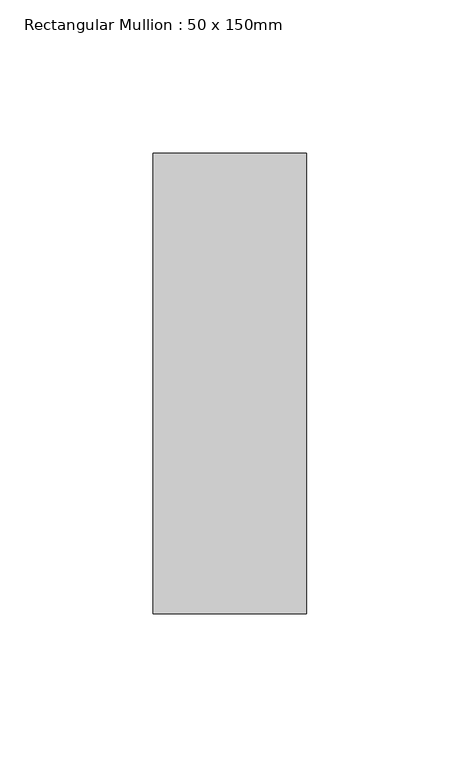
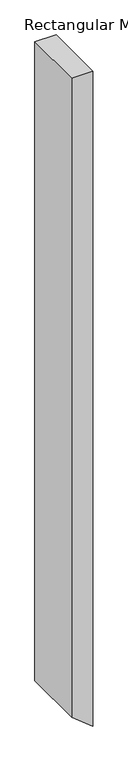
"""IFC4 building model written with IfcOpenShell, lengths in millimetres: member geometry, Rectangular Mullion : 50 x 150mm."""

from ifc_helpers import new_model, si_unit, frame, origin, place, context, project, spatial, polyline, outline, extrude, source, transform, mapped, element, save


def rectangular_mullion_50_x_150mm_6aa0c7af(model_context):
    return source(origin(), model_context, "Body", "SweptSolid", [
        extrude(outline(polyline([(0.0, 0.0), (0.0, -50.0), (-1589.9008568, -50.0), (-1629.5156212, 0.0), (0.0, 0.0)])), frame((0.0, -75.0, 0.0), z_axis=(0.0, 1.0, 0.0), x_axis=(0.0, 0.0, 1.0)), (0.0, 0.0, 1.0), 150.0),
    ])


if __name__ == "__main__":
    model = new_model("IFC4")
    model_context = context("Model", 3, world=origin())
    ifc_project = project(units=[si_unit("LENGTHUNIT", "METRE", prefix="MILLI")], contexts=[model_context])
    site = spatial("IfcSite", under=ifc_project)
    building = spatial("IfcBuilding", under=site)
    placement = place(None, origin())
    rectangular_mullion_50_x_150mm_shape = rectangular_mullion_50_x_150mm_6aa0c7af(model_context)
    element("IfcMember", 1, ObjectType="Rectangular Mullion : 50 x 150mm", at=placement, inside=building, context=model_context, shape_type="MappedRepresentation", body=[
        mapped(rectangular_mullion_50_x_150mm_shape, transform((0.0, 0.0, 0.0), x_axis=(1.0, 0.0, 0.0), y_axis=(0.0, 1.0, 0.0), z_axis=(0.0, 0.0, 1.0))),
    ])
    save(model, "model.ifc")
